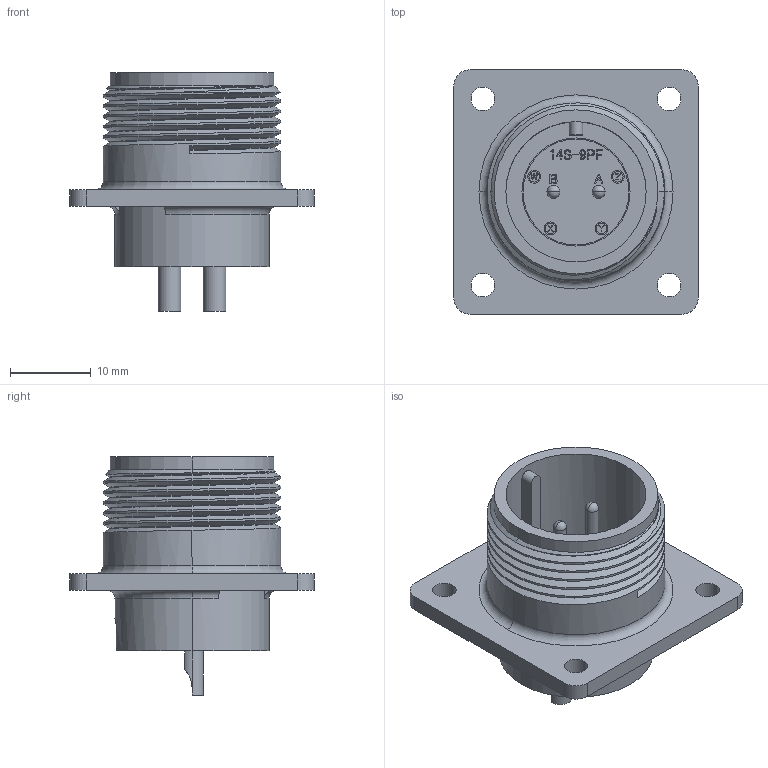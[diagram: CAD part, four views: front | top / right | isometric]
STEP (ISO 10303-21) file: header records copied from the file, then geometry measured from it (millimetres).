
FILE_DESCRIPTION (( 'STEP AP203' ), '1' );
FILE_NAME ('DMS3102A14S-9P.STEP', '2017-03-02T07:56:56', ( '' ), ( '' ), 'SwSTEP 2.0', 'SolidWorks 2015', '' );
FILE_SCHEMA (( 'CONFIG_CONTROL_DESIGN' ));
Length unit declared in the file: millimetre
Products named in the file (1): DMS3102A14S-9P
Bounding box: 30.2 x 30.2 x 29.47 mm (x, y, z)
Volume: 5419.8 mm3; surface area: 5865.4 mm2
Topology: 1 solids, 1 shells, 597 faces, 1609 edges, 1061 vertices
Faces by surface type: plane 305, bspline 164, cylinder 113, cone 6, torus 5, sphere 4
Entity records: 24134 total; most frequent: CARTESIAN_POINT 10248, ORIENTED_EDGE 3194, DIRECTION 2264, EDGE_CURVE 1597, VERTEX_POINT 1057, LINE 996, VECTOR 996, EDGE_LOOP 662
